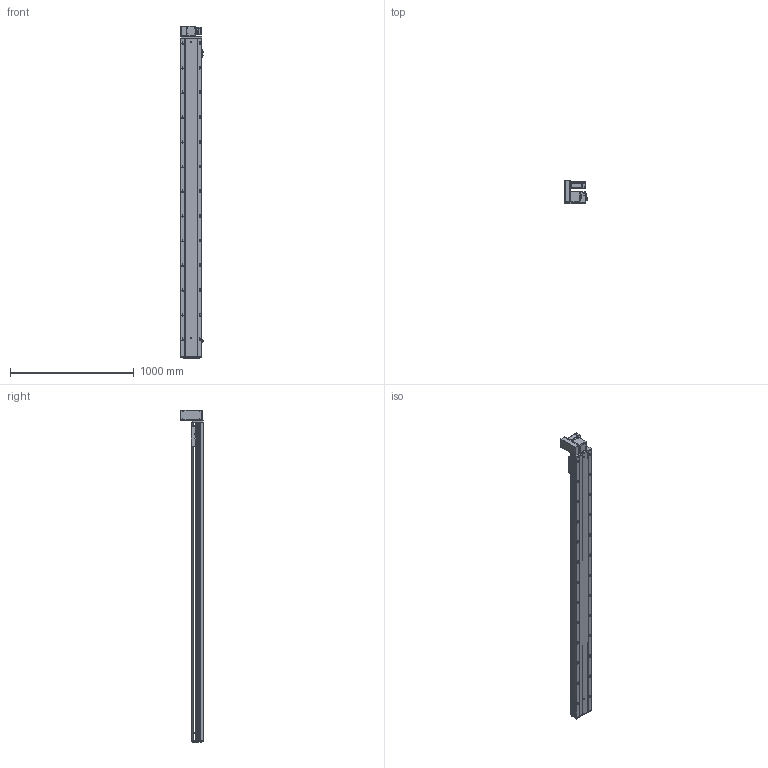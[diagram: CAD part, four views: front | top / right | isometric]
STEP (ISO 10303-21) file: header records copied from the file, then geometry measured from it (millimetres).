
FILE_DESCRIPTION (( 'STEP AP203' ), '1' );
FILE_NAME ('RY170-T-300-UL-P400W.SLDASM_2300.step', '2021-03-02T02:14:51', ( '盈信电脑' ), ( '东莞市道滘镇水果街19号' ), 'SwSTEP 2.0', 'SolidWorks 2012', '' );
FILE_SCHEMA (( 'CONFIG_CONTROL_DESIGN' ));
Products named in the file (18): RY170-T-300-UL-P400W.SLDASM_2300; 15; RY170-T蹟翐M4; RY120-T主同步轮轴承压盖; RY170同步轮电机安装板(400W); RY170肮祭謫萇儂欶; 滅袉蝶18-10; RY170-T肮祭謫裔啣; RY170翋肮祭謫釱; RY170-T肮祭湍揤踡輸2; RY170-T肮祭湍揤踡輸1; RY170綴裔啣; 覜茼ん672; RY170外置感应片(200共用）; RY170肮祭謫ヶ裔啣; RY170肮祭湍臏賑輸; RY170-T-300肮祭謫倰第菁釱-DL_2300; RY170-T-300肮祭謫倰第裔啣-DL_2300
Assembly tree (20 placements, depth 2):
  RY170-T-300-UL-P400W.SLDASM_2300
    RY170-T-300肮祭謫倰第菁釱-DL_2300
    RY170肮祭湍臏賑輸
    RY170-T-300肮祭謫倰第裔啣-DL_2300
    RY170綴裔啣
    覜茼ん672  x3
    RY170外置感应片(200共用）
    RY170肮祭謫ヶ裔啣
    RY170翋肮祭謫釱
    RY170-T肮祭湍揤踡輸1
    RY170-T肮祭湍揤踡輸2
    RY170-T肮祭謫裔啣
    滅袉蝶18-10  x2
    RY120-T主同步轮轴承压盖
    RY170肮祭謫萇儂欶
    RY170同步轮电机安装板(400W)
    RY170-T蹟翐M4
    15
Bounding box: 183.7 x 184 x 2688 mm (x, y, z)
Volume: 12299577.6 mm3; surface area: 4241227.5 mm2
Topology: 20 solids, 20 shells, 2901 faces, 8194 edges, 5201 vertices
Faces by surface type: cylinder 1390, plane 1157, cone 324, bspline 30
Entity records: 94208 total; most frequent: CARTESIAN_POINT 22092, ORIENTED_EDGE 14856, DIRECTION 14426, EDGE_CURVE 7428, AXIS2_PLACEMENT_3D 5137, VERTEX_POINT 4869, VECTOR 4152, LINE 4152
